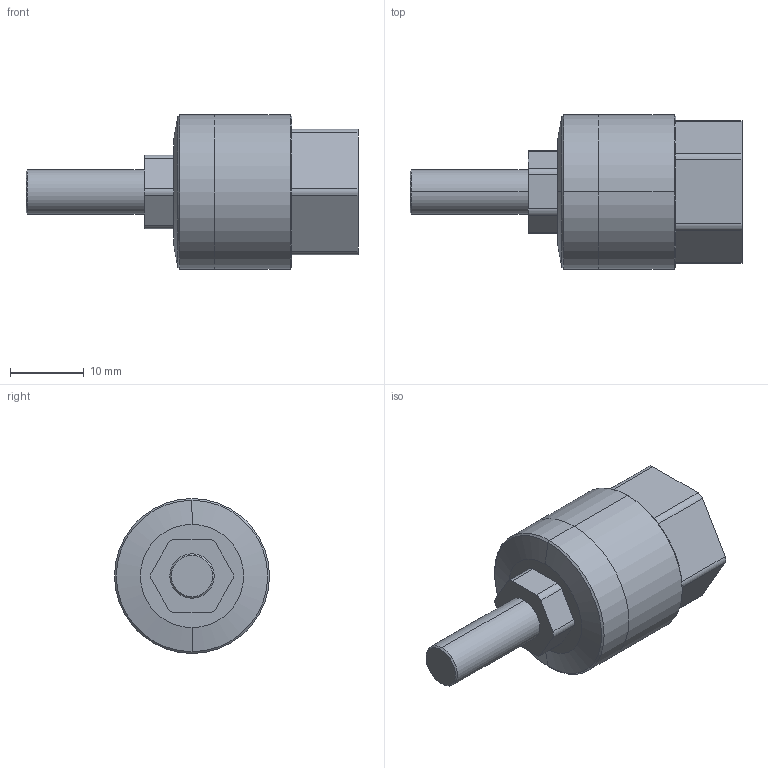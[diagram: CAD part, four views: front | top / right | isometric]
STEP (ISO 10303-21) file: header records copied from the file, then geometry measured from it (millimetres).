
FILE_DESCRIPTION (( 'STEP AP203' ), '1' );
FILE_NAME ('FCM6-1.STEP', '2016-03-23T03:40:05', ( 'Sam Lin' ), ( '' ), 'SwSTEP 2.0', 'SolidWorks 2013', '' );
FILE_SCHEMA (( 'CONFIG_CONTROL_DESIGN' ));
Length unit declared in the file: millimetre
Products named in the file (1): FCM6-1
Bounding box: 45 x 21 x 21 mm (x, y, z)
Volume: 8178.7 mm3; surface area: 2925.7 mm2
Topology: 1 solids, 1 shells, 47 faces, 114 edges, 71 vertices
Faces by surface type: cylinder 20, plane 17, cone 10
Entity records: 1441 total; most frequent: DIRECTION 254, CARTESIAN_POINT 231, ORIENTED_EDGE 224, EDGE_CURVE 112, AXIS2_PLACEMENT_3D 94, VERTEX_POINT 71, VECTOR 66, LINE 66
